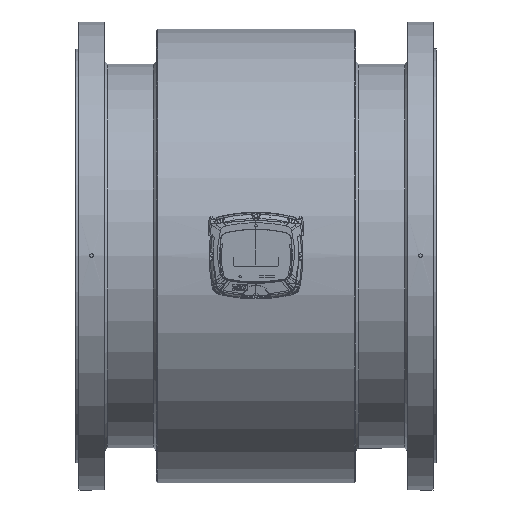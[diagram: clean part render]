
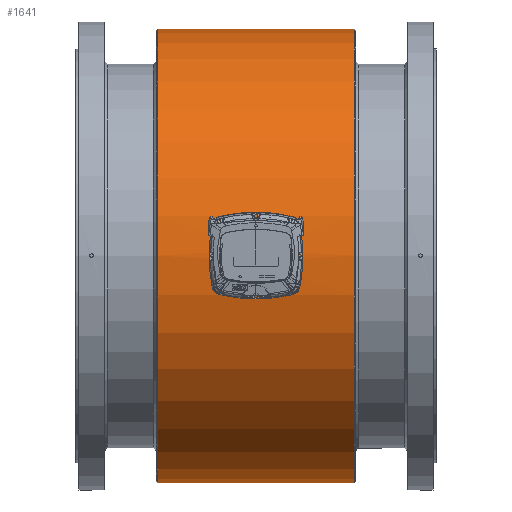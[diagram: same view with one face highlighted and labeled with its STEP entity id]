
A CAD part, top view. The second image highlights one B-rep face of the part: STEP entity #1641.
In plain terms, the highlighted cylindrical face has radius 378 mm (diameter 756 mm), a full revolution.
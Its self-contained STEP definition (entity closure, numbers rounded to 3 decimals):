
#1576=CARTESIAN_POINT('',(0.,-11.499,377.825));
#1577=VERTEX_POINT('',#1576);
#1587=CARTESIAN_POINT('',(0.,-11.5,377.825));
#1588=CARTESIAN_POINT('',(1.732,-11.5,377.825));
#1589=CARTESIAN_POINT('',(5.195,-10.714,377.85));
#1590=CARTESIAN_POINT('',(9.36,-7.417,377.935));
#1591=CARTESIAN_POINT('',(11.673,-2.645,378.003));
#1592=CARTESIAN_POINT('',(11.669,2.056,378.003));
#1593=CARTESIAN_POINT('',(9.751,6.919,377.946));
#1594=CARTESIAN_POINT('',(6.664,9.775,377.875));
#1595=CARTESIAN_POINT('',(3.425,11.03,377.839));
#1596=CARTESIAN_POINT('',(0.04,11.805,377.815));
#1597=CARTESIAN_POINT('',(-4.733,11.086,377.84));
#1598=CARTESIAN_POINT('',(-9.359,7.413,377.935));
#1599=CARTESIAN_POINT('',(-11.672,2.647,378.003));
#1600=CARTESIAN_POINT('',(-11.672,-2.646,378.003));
#1601=CARTESIAN_POINT('',(-9.361,-7.416,377.935));
#1602=CARTESIAN_POINT('',(-5.195,-10.714,377.85));
#1603=CARTESIAN_POINT('',(-1.732,-11.5,377.825));
#1604=CARTESIAN_POINT('',(0.,-11.5,377.825));
#1605=B_SPLINE_CURVE_WITH_KNOTS('',3,(#1587,#1588,#1589,#1590,#1591,#1592,#1593,#1594,#1595,#1596,#1597,#1598,#1599,#1600,#1601,#1602,#1603,#1604),.UNSPECIFIED.,.T.,.U.,(4,1,1,1,1,1,1,1,1,1,1,1,1,1,1,4),(-7.241,-6.724,-6.207,-5.69,-5.172,-4.828,-4.138,-3.966,-3.793,-3.103,-2.586,-2.069,-1.552,-1.034,-0.517,0.0),.UNSPECIFIED.);
#1606=EDGE_CURVE('',#1577,#1577,#1605,.T.);
#1611=CARTESIAN_POINT('',(82.0,0.0,0.0));
#1612=DIRECTION('',(1.0,0.0,0.0));
#1613=DIRECTION('',(0.0,1.0,0.0));
#1614=AXIS2_PLACEMENT_3D('',#1611,#1612,#1613);
#1615=CYLINDRICAL_SURFACE('',#1614,378.0);
#1616=CARTESIAN_POINT('',(-164.,378.0,0.0));
#1617=VERTEX_POINT('',#1616);
#1618=CARTESIAN_POINT('',(-164.,0.0,0.0));
#1619=DIRECTION('',(1.0,0.0,0.0));
#1620=DIRECTION('',(0.0,1.0,0.0));
#1621=AXIS2_PLACEMENT_3D('',#1618,#1619,#1620);
#1622=CIRCLE('',#1621,378.0);
#1623=EDGE_CURVE('',#1617,#1617,#1622,.T.);
#1624=ORIENTED_EDGE('',*,*,#1623,.T.);
#1625=EDGE_LOOP('',(#1624));
#1626=FACE_OUTER_BOUND('',#1625,.T.);
#1627=CARTESIAN_POINT('',(164.,378.0,0.0));
#1628=VERTEX_POINT('',#1627);
#1629=CARTESIAN_POINT('',(164.,0.0,0.0));
#1630=DIRECTION('',(1.0,0.0,0.0));
#1631=DIRECTION('',(0.0,1.0,0.0));
#1632=AXIS2_PLACEMENT_3D('',#1629,#1630,#1631);
#1633=CIRCLE('',#1632,378.0);
#1634=EDGE_CURVE('',#1628,#1628,#1633,.T.);
#1635=ORIENTED_EDGE('',*,*,#1634,.F.);
#1636=EDGE_LOOP('',(#1635));
#1637=FACE_BOUND('',#1636,.T.);
#1638=ORIENTED_EDGE('',*,*,#1606,.F.);
#1639=EDGE_LOOP('',(#1638));
#1640=FACE_BOUND('',#1639,.T.);
#1641=ADVANCED_FACE('',(#1626,#1637,#1640),#1615,.T.);
